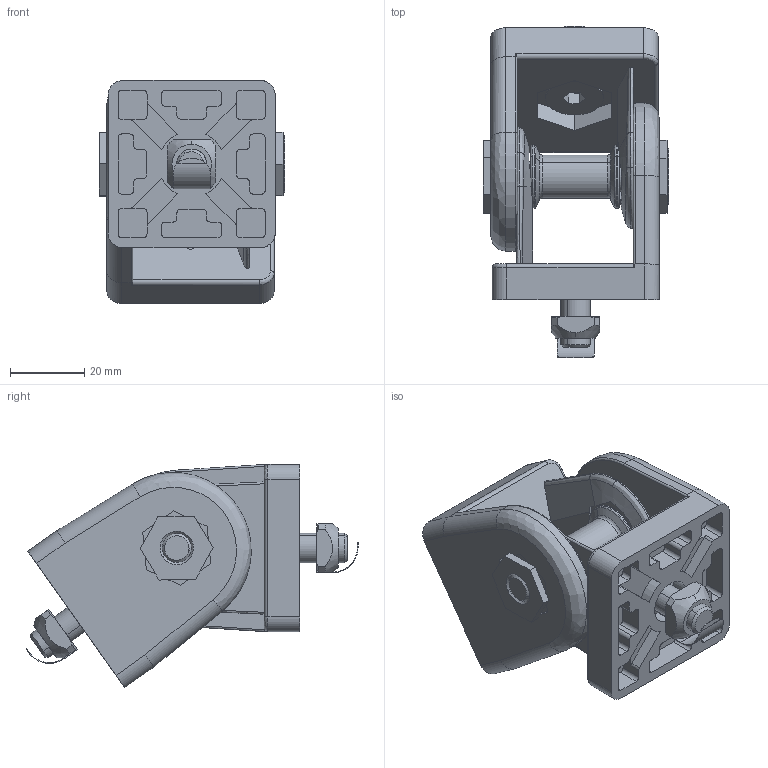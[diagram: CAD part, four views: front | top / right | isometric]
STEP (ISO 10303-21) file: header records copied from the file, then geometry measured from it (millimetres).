
FILE_DESCRIPTION (( 'STEP AP214' ), '1' );
FILE_NAME ('1.4012 Kulmauloke.STEP', '2025-09-11T10:57:40', ( '' ), ( '' ), 'SwSTEP 2.0', 'SolidWorks 2025', '' );
FILE_SCHEMA (( 'AUTOMOTIVE_DESIGN' ));
Length unit declared in the file: millimetre
Products named in the file (8): Part1_1; 1.2054 Uppokantaruuvi M8x20; Part3; Part2_M8; socket countersunk head screw_iso_ISO 10642 - M8 x 50 - 28C; 1.4012 Kulmauloke; 1.2014 Neliömutteri M8 kiinnityslevyllä; Part2
Assembly tree (10 placements, depth 2):
  1.4012 Kulmauloke
    Part1_1  x2
    Part2
    Part2_M8
    Part3
    socket countersunk head screw_iso_ISO 10642 - M8 x 50 - 28C
    1.2054 Uppokantaruuvi M8x20  x2
    1.2014 Neliömutteri M8 kiinnityslevyllä  x2
Bounding box: 50 x 89.36 x 60.05 mm (x, y, z)
Volume: 61605 mm3; surface area: 36507 mm2
Topology: 10 solids, 10 shells, 604 faces, 1548 edges, 985 vertices
Faces by surface type: plane 306, cylinder 196, bspline 54, cone 44, torus 4
Entity records: 15021 total; most frequent: CARTESIAN_POINT 3208, DIRECTION 1744, ORIENTED_EDGE 1736, EDGE_CURVE 868, AXIS2_PLACEMENT_3D 611, VERTEX_POINT 549, LINE 522, VECTOR 522
